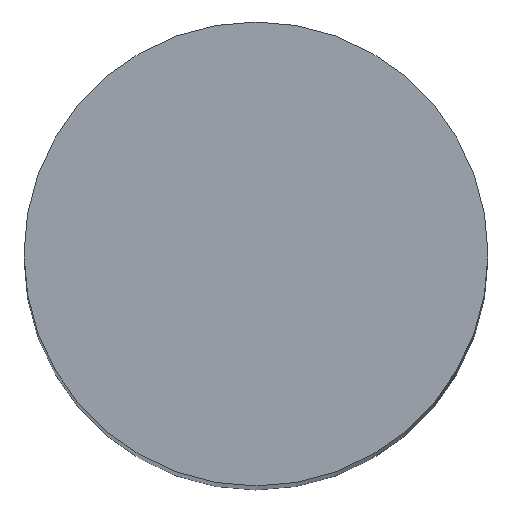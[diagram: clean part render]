
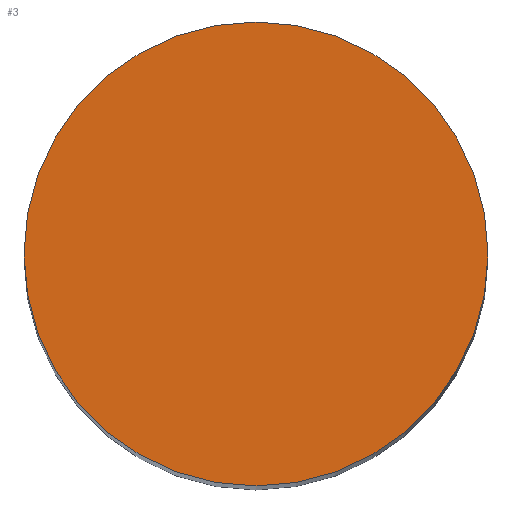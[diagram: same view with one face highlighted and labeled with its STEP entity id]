
A CAD part, top view. The second image highlights one B-rep face of the part: STEP entity #3.
In plain terms, the highlighted planar face has unit normal (0, 0, 1).
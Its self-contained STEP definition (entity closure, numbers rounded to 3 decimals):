
#1 = ORIENTED_EDGE ( 'NONE', *, *, #14, .T. ) ;
#3 = ADVANCED_FACE ( 'NONE', ( #39 ), #56, .T. ) ;
#8 = VERTEX_POINT ( 'NONE', #42 ) ;
#9 = VERTEX_POINT ( 'NONE', #40 ) ;
#10 = ORIENTED_EDGE ( 'NONE', *, *, #11, .T. ) ;
#11 = EDGE_CURVE ( 'NONE', #8, #9, #45, .T. ) ;
#14 = EDGE_CURVE ( 'NONE', #9, #8, #97, .T. ) ;
#31 = EDGE_LOOP ( 'NONE', ( #1, #10 ) ) ;
#39 = FACE_OUTER_BOUND ( 'NONE', #31, .T. ) ;
#40 = CARTESIAN_POINT ( 'NONE',  ( -30., 0., 300. ) ) ;
#41 = AXIS2_PLACEMENT_3D ( 'NONE', #51, #43, #49 ) ;
#42 = CARTESIAN_POINT ( 'NONE',  ( 30., 0., 300. ) ) ;
#43 = DIRECTION ( 'NONE',  ( 0., 0., 1. ) ) ;
#44 = AXIS2_PLACEMENT_3D ( 'NONE', #53, #52, #48 ) ;
#45 = CIRCLE ( 'NONE', #44, 30. ) ;
#48 = DIRECTION ( 'NONE',  ( 1., 0., 0. ) ) ;
#49 = DIRECTION ( 'NONE',  ( 1., 0., 0. ) ) ;
#51 = CARTESIAN_POINT ( 'NONE',  ( 0., 0., 300. ) ) ;
#52 = DIRECTION ( 'NONE',  ( 0., 0., 1. ) ) ;
#53 = CARTESIAN_POINT ( 'NONE',  ( 0., 0., 300. ) ) ;
#56 = PLANE ( 'NONE',  #41 ) ;
#74 = AXIS2_PLACEMENT_3D ( 'NONE', #98, #96, #75 ) ;
#75 = DIRECTION ( 'NONE',  ( 1., 0., 0. ) ) ;
#96 = DIRECTION ( 'NONE',  ( 0., 0., 1. ) ) ;
#97 = CIRCLE ( 'NONE', #74, 30. ) ;
#98 = CARTESIAN_POINT ( 'NONE',  ( 0., 0., 300. ) ) ;
